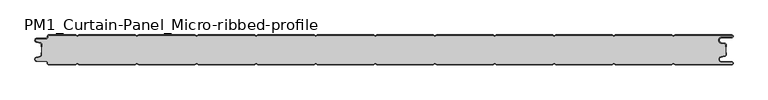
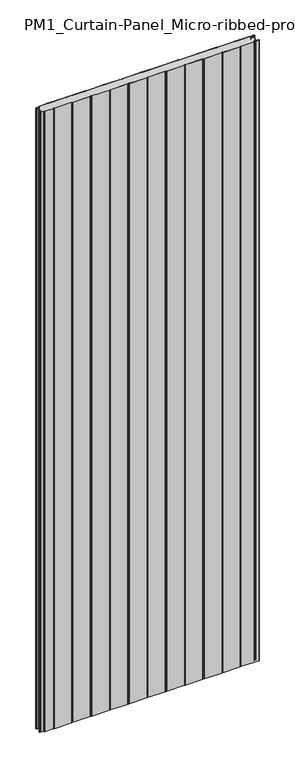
"""IFC4 building model written with IfcOpenShell, lengths in millimetres: plate geometry, PM1_Curtain-Panel_Micro-ribbed-profile : ACH_PM1_Stone-wool-Panel_50M."""

from ifc_helpers import new_model, si_unit, point, frame_2d, origin, origin_with_axes, place, context, project, spatial, polyline, circle_curve, trimmed, segment, composite_curve, outline, extrude, source, transform, mapped, element, save


def pm1_curtain_panel_micro_ribbed_profile_733792b1(model_context):
    return source(origin(), model_context, "Body", "SweptSolid", [
        extrude(outline(composite_curve([segment(trimmed(circle_curve(frame_2d((-577.0, -15.878557)), 2.0), [point((-575.0, -15.878557))], [point((-576.5500978, -13.9298169))], True, "CARTESIAN"), True, "CONTINUOUS"), segment(polyline([(-576.5500978, -13.9298169), (-582.7098239, -12.507732)]), True, "CONTINUOUS"), segment(trimmed(circle_curve(frame_2d((-581.9, -9.0)), 3.6), [point((-582.7098239, -12.507732))], [point((-581.9, -5.4))], False, "CARTESIAN"), True, "CONTINUOUS"), segment(polyline([(-581.9, -5.4), (-566.4, -5.4)]), True, "CONTINUOUS"), segment(trimmed(circle_curve(frame_2d((-566.4, -3.4)), 2.0), [point((-566.4, -5.4))], [point((-564.4, -3.4))], True, "CARTESIAN"), True, "CONTINUOUS"), segment(polyline([(-564.4, -3.4), (-564.4, -2.0)]), True, "CONTINUOUS"), segment(trimmed(circle_curve(frame_2d((-562.4, -2.0)), 2.0), [point((-564.4, -2.0))], [point((-562.4, 0.0))], False, "CARTESIAN"), True, "CONTINUOUS"), segment(polyline([(-562.4, 0.0), (-517.0999995, 0.0), (-514.4, -1.5588455), (-511.7000005, 0.0), (-417.0999995, 0.0), (-414.4, -1.5588455), (-411.7000005, 0.0), (-317.0999995, 0.0), (-314.4, -1.5588455), (-311.7000005, 0.0), (-217.0999995, 0.0), (-214.4, -1.5588455), (-211.7000005, 0.0), (-117.0999995, 0.0), (-114.4, -1.5588455), (-111.7000005, 0.0), (-17.0999995, 0.0), (-14.4, -1.5588455), (-11.7000005, 0.0), (82.9000005, 0.0), (85.6, -1.5588455), (88.2999995, 0.0), (182.9000005, 0.0), (185.6, -1.5588455), (188.2999995, 0.0), (282.9000005, 0.0), (285.6, -1.5588455), (288.2999995, 0.0), (382.9000005, 0.0), (385.6, -1.5588455), (388.2999995, 0.0), (482.9000005, 0.0), (485.6, -1.5588455), (488.2999995, 0.0), (583.1, 0.0)]), True, "CONTINUOUS"), segment(trimmed(circle_curve(frame_2d((583.1, -2.5)), 2.5), [point((583.1, 0.0))], [point((583.1, -5.0))], False, "CARTESIAN"), True, "CONTINUOUS"), segment(polyline([(583.1, -5.0), (566.1, -5.0)]), True, "CONTINUOUS"), segment(trimmed(circle_curve(frame_2d((566.1, -9.0)), 4.0), [point((566.1, -5.0))], [point((565.405407, -12.939231))], True, "CARTESIAN"), True, "CONTINUOUS"), segment(polyline([(565.405407, -12.939231), (571.8514855, -14.0758491)]), True, "CONTINUOUS"), segment(trimmed(circle_curve(frame_2d((571.4, -16.6363492)), 2.6), [point((571.8514855, -14.0758491))], [point((574.0, -16.6363492))], False, "CARTESIAN"), True, "CONTINUOUS"), segment(polyline([(574.0, -16.6363492), (574.0, -20.0), (573.2, -20.0), (573.2, -16.6363492)]), True, "CONTINUOUS"), segment(trimmed(circle_curve(frame_2d((571.4, -16.6363492)), 1.8), [point((573.2, -16.6363492))], [point((571.7125669, -14.8636953))], True, "CARTESIAN"), True, "CONTINUOUS"), segment(polyline([(571.7125669, -14.8636953), (565.2664884, -13.7270772)]), True, "CONTINUOUS"), segment(trimmed(circle_curve(frame_2d((566.1, -9.0)), 4.8), [point((565.2664884, -13.7270772))], [point((566.1, -4.2))], False, "CARTESIAN"), True, "CONTINUOUS"), segment(polyline([(566.1, -4.2), (583.1, -4.2)]), True, "CONTINUOUS"), segment(trimmed(circle_curve(frame_2d((583.1, -2.5)), 1.7), [point((583.1, -4.2))], [point((583.1, -0.8))], True, "CARTESIAN"), True, "CONTINUOUS"), segment(polyline([(583.1, -0.8), (488.5143588, -0.8), (485.6, -2.482606), (482.6856412, -0.8), (388.5143588, -0.8), (385.6, -2.482606), (382.6856412, -0.8), (288.5143588, -0.8), (285.6, -2.482606), (282.6856412, -0.8), (188.5143588, -0.8), (185.6, -2.482606), (182.6856412, -0.8), (88.5143588, -0.8), (85.6, -2.482606), (82.6856412, -0.8), (-11.4856412, -0.8), (-14.4, -2.482606), (-17.3143588, -0.8), (-111.4856412, -0.8), (-114.4, -2.482606), (-117.3143588, -0.8), (-211.4856412, -0.8), (-214.4, -2.482606), (-217.3143588, -0.8), (-311.4856412, -0.8), (-314.4, -2.482606), (-317.3143588, -0.8), (-411.4856412, -0.8), (-414.4, -2.482606), (-417.3143588, -0.8), (-511.4856412, -0.8), (-514.4, -2.482606), (-517.3143588, -0.8), (-562.4, -0.8)]), True, "CONTINUOUS"), segment(trimmed(circle_curve(frame_2d((-562.4, -2.0)), 1.2), [point((-562.4, -0.8))], [point((-563.6, -2.0))], True, "CARTESIAN"), True, "CONTINUOUS"), segment(polyline([(-563.6, -2.0), (-563.6, -3.4)]), True, "CONTINUOUS"), segment(trimmed(circle_curve(frame_2d((-566.4, -3.4)), 2.8), [point((-563.6, -3.4))], [point((-566.4, -6.2))], False, "CARTESIAN"), True, "CONTINUOUS"), segment(polyline([(-566.4, -6.2), (-581.9, -6.2)]), True, "CONTINUOUS"), segment(trimmed(circle_curve(frame_2d((-581.9, -9.0)), 2.8), [point((-581.9, -6.2))], [point((-582.529863, -11.7282362))], True, "CARTESIAN"), True, "CONTINUOUS"), segment(polyline([(-582.529863, -11.7282362), (-576.370137, -13.150321)]), True, "CONTINUOUS"), segment(trimmed(circle_curve(frame_2d((-577.0, -15.878557)), 2.8), [point((-576.370137, -13.150321))], [point((-574.2, -15.878557))], False, "CARTESIAN"), True, "CONTINUOUS"), segment(polyline([(-574.2, -15.878557), (-574.2, -20.0), (-575.0, -20.0), (-575.0, -15.878557)]), True, "CONTINUOUS")], self_intersect=False)), origin_with_axes(), (0.0, 0.0, 1.0), 3500.0),
        extrude(outline(composite_curve([segment(polyline([(-574.2, -34.1214426), (-574.2, -15.8785573)]), True, "CONTINUOUS"), segment(trimmed(circle_curve(frame_2d((-577.0, -15.8785573)), 2.8), [point((-574.2, -15.8785573))], [point((-576.370137, -13.1503212))], True, "CARTESIAN"), True, "CONTINUOUS"), segment(polyline([(-576.370137, -13.1503212), (-582.5298631, -11.7282362)]), True, "CONTINUOUS"), segment(trimmed(circle_curve(frame_2d((-581.9, -9.0)), 2.8), [point((-582.5298631, -11.7282362))], [point((-581.9, -6.2))], False, "CARTESIAN"), True, "CONTINUOUS"), segment(polyline([(-581.9, -6.2), (-566.4000001, -6.2)]), True, "CONTINUOUS"), segment(trimmed(circle_curve(frame_2d((-566.4000001, -3.4)), 2.8), [point((-566.4000001, -6.2))], [point((-563.6000001, -3.4))], True, "CARTESIAN"), True, "CONTINUOUS"), segment(polyline([(-563.6000001, -3.4), (-563.6000001, -2.0)]), True, "CONTINUOUS"), segment(trimmed(circle_curve(frame_2d((-562.4000001, -2.0)), 1.2), [point((-563.6000001, -2.0))], [point((-562.4000001, -0.8))], False, "CARTESIAN"), True, "CONTINUOUS"), segment(polyline([(-562.4000001, -0.8), (-517.3143589, -0.8), (-514.4000001, -2.482606), (-511.4856412, -0.8), (-417.3143589, -0.8), (-414.4000001, -2.482606), (-411.4856412, -0.8), (-317.3143589, -0.8), (-314.4000001, -2.482606), (-311.4856412, -0.8), (-217.3143589, -0.8), (-214.4000001, -2.482606), (-211.4856412, -0.8), (-117.3143589, -0.8), (-114.4000001, -2.482606), (-111.4856412, -0.8), (-17.3143589, -0.8), (-14.4000001, -2.482606), (-11.4856412, -0.8), (82.6856411, -0.8), (85.5999999, -2.482606), (88.5143588, -0.8), (182.6856411, -0.8), (185.5999999, -2.482606), (188.5143588, -0.8), (282.6856411, -0.8), (285.5999999, -2.482606), (288.5143588, -0.8), (382.6856411, -0.8), (385.5999999, -2.482606), (388.5143588, -0.8), (482.6856411, -0.8), (485.6, -2.482606), (488.5143588, -0.8), (583.1, -0.8)]), True, "CONTINUOUS"), segment(trimmed(circle_curve(frame_2d((583.1, -2.5)), 1.7), [point((583.1, -0.8))], [point((583.1, -4.2))], False, "CARTESIAN"), True, "CONTINUOUS"), segment(polyline([(583.1, -4.2), (566.1, -4.2)]), True, "CONTINUOUS"), segment(trimmed(circle_curve(frame_2d((566.1, -9.0)), 4.8), [point((566.1, -4.2))], [point((565.2664883, -13.7270771))], True, "CARTESIAN"), True, "CONTINUOUS"), segment(polyline([(565.2664883, -13.7270771), (571.7125668, -14.8636953)]), True, "CONTINUOUS"), segment(trimmed(circle_curve(frame_2d((571.4, -16.6363492)), 1.8), [point((571.7125668, -14.8636953))], [point((573.2, -16.6363492))], False, "CARTESIAN"), True, "CONTINUOUS"), segment(polyline([(573.2, -16.6363492), (573.2, -33.3636508)]), True, "CONTINUOUS"), segment(trimmed(circle_curve(frame_2d((571.4, -33.3636508)), 1.8), [point((573.2, -33.3636508))], [point((571.7125668, -35.1363047))], False, "CARTESIAN"), True, "CONTINUOUS"), segment(polyline([(571.7125668, -35.1363047), (565.2664883, -36.2729229)]), True, "CONTINUOUS"), segment(trimmed(circle_curve(frame_2d((566.1, -41.0)), 4.8), [point((565.2664883, -36.2729229))], [point((566.1, -45.8))], True, "CARTESIAN"), True, "CONTINUOUS"), segment(polyline([(566.1, -45.8), (583.1, -45.8)]), True, "CONTINUOUS"), segment(trimmed(circle_curve(frame_2d((583.1, -47.5)), 1.7), [point((583.1, -45.8))], [point((583.1, -49.2))], False, "CARTESIAN"), True, "CONTINUOUS"), segment(polyline([(583.1, -49.2), (488.5143588, -49.2), (485.6, -47.517394), (482.6856411, -49.2), (388.5143588, -49.2), (385.5999999, -47.517394), (382.6856411, -49.2), (288.5143588, -49.2), (285.5999999, -47.517394), (282.6856411, -49.2), (188.5143588, -49.2), (185.5999999, -47.517394), (182.6856411, -49.2), (88.5143588, -49.2), (85.5999999, -47.517394), (82.6856411, -49.2), (-11.4856412, -49.2), (-14.4000001, -47.517394), (-17.3143589, -49.2), (-111.4856412, -49.2), (-114.4000001, -47.517394), (-117.3143589, -49.2), (-211.4856412, -49.2), (-214.4000001, -47.517394), (-217.3143589, -49.2), (-311.4856412, -49.2), (-314.4000001, -47.517394), (-317.3143589, -49.2), (-411.4856412, -49.2), (-414.4000001, -47.517394), (-417.3143589, -49.2), (-511.4856412, -49.2), (-514.4000001, -47.517394), (-517.3143589, -49.2), (-562.4000001, -49.2)]), True, "CONTINUOUS"), segment(trimmed(circle_curve(frame_2d((-562.4000001, -48.0)), 1.2), [point((-562.4000001, -49.2))], [point((-563.6000001, -48.0))], False, "CARTESIAN"), True, "CONTINUOUS"), segment(polyline([(-563.6000001, -48.0), (-563.6000001, -46.6)]), True, "CONTINUOUS"), segment(trimmed(circle_curve(frame_2d((-566.4000001, -46.6)), 2.8), [point((-563.6000001, -46.6))], [point((-566.4000001, -43.8))], True, "CARTESIAN"), True, "CONTINUOUS"), segment(polyline([(-566.4000001, -43.8), (-581.9, -43.8)]), True, "CONTINUOUS"), segment(trimmed(circle_curve(frame_2d((-581.9, -41.0)), 2.8), [point((-581.9, -43.8))], [point((-582.5298631, -38.2717638))], False, "CARTESIAN"), True, "CONTINUOUS"), segment(polyline([(-582.5298631, -38.2717638), (-576.370137, -36.8496788)]), True, "CONTINUOUS"), segment(trimmed(circle_curve(frame_2d((-577.0, -34.1214426)), 2.8), [point((-576.370137, -36.8496788))], [point((-574.2, -34.1214426))], True, "CARTESIAN"), True, "CONTINUOUS")], self_intersect=False)), origin_with_axes(), (0.0, 0.0, 1.0), 3500.0),
        extrude(outline(composite_curve([segment(polyline([(-575.0, -34.121443), (-575.0, -30.0), (-574.2, -30.0), (-574.2, -34.121443)]), True, "CONTINUOUS"), segment(trimmed(circle_curve(frame_2d((-577.0, -34.121443)), 2.8), [point((-574.2, -34.121443))], [point((-576.370137, -36.8496792))], False, "CARTESIAN"), True, "CONTINUOUS"), segment(polyline([(-576.370137, -36.8496792), (-582.529863, -38.271764)]), True, "CONTINUOUS"), segment(trimmed(circle_curve(frame_2d((-581.9, -41.0)), 2.8), [point((-582.529863, -38.271764))], [point((-581.9, -43.8))], True, "CARTESIAN"), True, "CONTINUOUS"), segment(polyline([(-581.9, -43.8), (-566.4, -43.8)]), True, "CONTINUOUS"), segment(trimmed(circle_curve(frame_2d((-566.4, -46.6)), 2.8), [point((-566.4, -43.8))], [point((-563.6, -46.6))], False, "CARTESIAN"), True, "CONTINUOUS"), segment(polyline([(-563.6, -46.6), (-563.6, -48.0)]), True, "CONTINUOUS"), segment(trimmed(circle_curve(frame_2d((-562.4, -48.0)), 1.2), [point((-563.6, -48.0))], [point((-562.4, -49.2))], True, "CARTESIAN"), True, "CONTINUOUS"), segment(polyline([(-562.4, -49.2), (-517.3143588, -49.2), (-514.4, -47.517394), (-511.4856412, -49.2), (-417.3143588, -49.2), (-414.4, -47.517394), (-411.4856412, -49.2), (-317.3143588, -49.2), (-314.4, -47.517394), (-311.4856412, -49.2), (-217.3143588, -49.2), (-214.4, -47.517394), (-211.4856412, -49.2), (-117.3143588, -49.2), (-114.4, -47.517394), (-111.4856412, -49.2), (-17.3143588, -49.2), (-14.4, -47.517394), (-11.4856412, -49.2), (82.6856412, -49.2), (85.6, -47.517394), (88.5143588, -49.2), (182.6856412, -49.2), (185.6, -47.517394), (188.5143588, -49.2), (282.6856412, -49.2), (285.6, -47.517394), (288.5143588, -49.2), (382.6856412, -49.2), (385.6, -47.517394), (388.5143588, -49.2), (482.6856412, -49.2), (485.6, -47.517394), (488.5143588, -49.2), (583.1, -49.2)]), True, "CONTINUOUS"), segment(trimmed(circle_curve(frame_2d((583.1, -47.5)), 1.7), [point((583.1, -49.2))], [point((583.1, -45.8))], True, "CARTESIAN"), True, "CONTINUOUS"), segment(polyline([(583.1, -45.8), (566.1, -45.8)]), True, "CONTINUOUS"), segment(trimmed(circle_curve(frame_2d((566.1, -41.0)), 4.8), [point((566.1, -45.8))], [point((565.2664884, -36.2729229))], False, "CARTESIAN"), True, "CONTINUOUS"), segment(polyline([(565.2664884, -36.2729229), (571.7125669, -35.1363047)]), True, "CONTINUOUS"), segment(trimmed(circle_curve(frame_2d((571.4, -33.3636508)), 1.8), [point((571.7125669, -35.1363047))], [point((573.2, -33.3636508))], True, "CARTESIAN"), True, "CONTINUOUS"), segment(polyline([(573.2, -33.3636508), (573.2, -30.0), (574.0, -30.0), (574.0, -33.3636508)]), True, "CONTINUOUS"), segment(trimmed(circle_curve(frame_2d((571.4, -33.3636508)), 2.6), [point((574.0, -33.3636508))], [point((571.8514855, -35.9241509))], False, "CARTESIAN"), True, "CONTINUOUS"), segment(polyline([(571.8514855, -35.9241509), (565.405407, -37.060769)]), True, "CONTINUOUS"), segment(trimmed(circle_curve(frame_2d((566.1, -41.0)), 4.0), [point((565.405407, -37.060769))], [point((566.1, -45.0))], True, "CARTESIAN"), True, "CONTINUOUS"), segment(polyline([(566.1, -45.0), (583.1, -45.0)]), True, "CONTINUOUS"), segment(trimmed(circle_curve(frame_2d((583.1, -47.5)), 2.5), [point((583.1, -45.0))], [point((583.1, -50.0))], False, "CARTESIAN"), True, "CONTINUOUS"), segment(polyline([(583.1, -50.0), (488.2999995, -50.0), (485.6, -48.4411545), (482.9000005, -50.0), (388.2999995, -50.0), (385.6, -48.4411545), (382.9000005, -50.0), (288.2999995, -50.0), (285.6, -48.4411545), (282.9000005, -50.0), (188.2999995, -50.0), (185.6, -48.4411545), (182.9000005, -50.0), (88.2999995, -50.0), (85.6, -48.4411545), (82.9000005, -50.0), (-11.7000005, -50.0), (-14.4, -48.4411545), (-17.0999995, -50.0), (-111.7000005, -50.0), (-114.4, -48.4411545), (-117.0999995, -50.0), (-211.7000005, -50.0), (-214.4, -48.4411545), (-217.0999995, -50.0), (-311.7000005, -50.0), (-314.4, -48.4411545), (-317.0999995, -50.0), (-411.7000005, -50.0), (-414.4, -48.4411545), (-417.0999995, -50.0), (-511.7000005, -50.0), (-514.4, -48.4411545), (-517.0999995, -50.0), (-562.4, -50.0)]), True, "CONTINUOUS"), segment(trimmed(circle_curve(frame_2d((-562.4, -48.0)), 2.0), [point((-562.4, -50.0))], [point((-564.4, -48.0))], False, "CARTESIAN"), True, "CONTINUOUS"), segment(polyline([(-564.4, -48.0), (-564.4, -46.6)]), True, "CONTINUOUS"), segment(trimmed(circle_curve(frame_2d((-566.4, -46.6)), 2.0), [point((-564.4, -46.6))], [point((-566.4, -44.6))], True, "CARTESIAN"), True, "CONTINUOUS"), segment(polyline([(-566.4, -44.6), (-581.9, -44.6)]), True, "CONTINUOUS"), segment(trimmed(circle_curve(frame_2d((-581.9, -41.0)), 3.6), [point((-581.9, -44.6))], [point((-582.7098239, -37.4922678))], False, "CARTESIAN"), True, "CONTINUOUS"), segment(polyline([(-582.7098239, -37.4922678), (-576.5500979, -36.070183)]), True, "CONTINUOUS"), segment(trimmed(circle_curve(frame_2d((-577.0, -34.121443)), 2.0), [point((-576.5500979, -36.070183))], [point((-575.0, -34.121443))], True, "CARTESIAN"), True, "CONTINUOUS")], self_intersect=False)), origin_with_axes(), (0.0, 0.0, 1.0), 3500.0),
    ])


if __name__ == "__main__":
    model = new_model("IFC4")
    model_context = context("Model", 3, world=origin())
    ifc_project = project(units=[si_unit("LENGTHUNIT", "METRE", prefix="MILLI")], contexts=[model_context])
    site = spatial("IfcSite", under=ifc_project)
    building = spatial("IfcBuilding", under=site)
    placement = place(None, origin())
    pm1_curtain_panel_micro_ribbed_profile_shape = pm1_curtain_panel_micro_ribbed_profile_733792b1(model_context)
    element("IfcPlate", 1, ObjectType="PM1_Curtain-Panel_Micro-ribbed-profile : ACH_PM1_Stone-wool-Panel_50M", at=placement, inside=building, context=model_context, shape_type="MappedRepresentation", body=[
        mapped(pm1_curtain_panel_micro_ribbed_profile_shape, transform((0.0, 0.0, 0.0), x_axis=(1.0, 0.0, 0.0), y_axis=(0.0, 1.0, 0.0), z_axis=(0.0, 0.0, 1.0))),
    ])
    save(model, "model.ifc")
